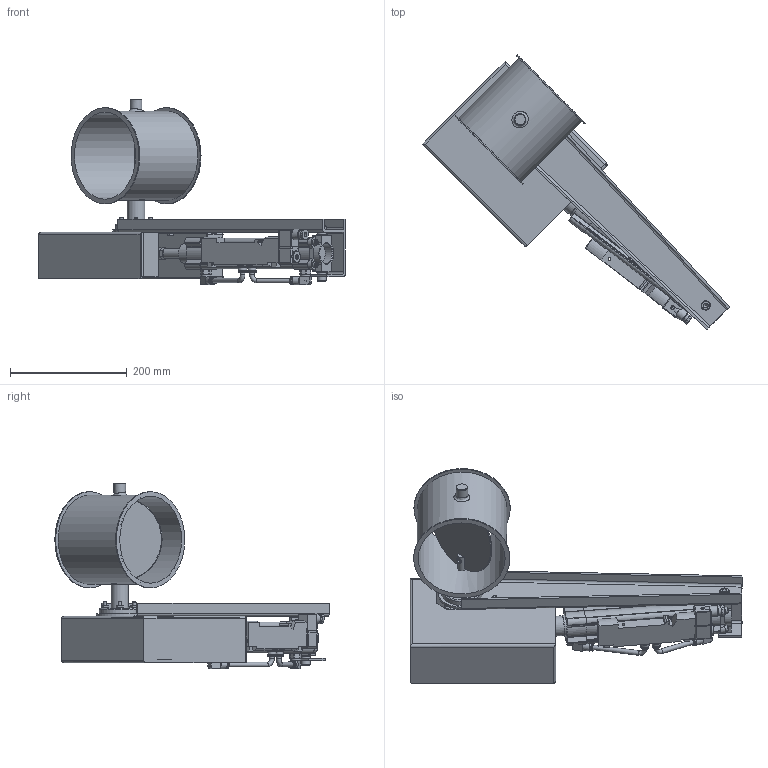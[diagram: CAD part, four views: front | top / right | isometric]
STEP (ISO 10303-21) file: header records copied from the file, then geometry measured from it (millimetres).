
FILE_DESCRIPTION((''),'2;1');
FILE_NAME('U:\Wolfgang\Marcel-3D\fertig\Kapitel 8\1521211.stp','2011-05-03T15:02:44',('TK1'),(''),'Autodesk Inventor 2010','Autodesk Inventor 2010','');
FILE_SCHEMA(('AUTOMOTIVE_DESIGN { 1 0 10303 214 1 1 1 1 }'));
Length unit declared in the file: millimetre
Products named in the file (38): 1521211; BuchseD15 70-50; Bolzen D15; Scheibe150; F1 Zylindereinheit; 174412_ZNCF_40_6_0; 174412_ZNCF_40_6_01; 174412_ZNCF_40_6_02; 174412_ZNCF_40_6_03; 174412_ZNCF_40_6_04; 174412_ZNCF_40_6_05; 532743_DNCB_40_160_PPV_A_6_0; 532743_DNCB_40_160_PPV_A_6_01; 532743_DNCB_40_160_PPV_A_6_02; 537600_VUVB_S_B42_ZD_Q8_3AC1_6_0; 537600_VUVB_S_B42_ZD_Q8_3AC1_6_01; 537600_VUVB_S_B42_ZD_Q8_3AC1_6_02; 537600_VUVB_S_B42_ZD_Q8_3AC1_6_03; 4527_MSFG_24_42_50_60_6_0; 4527_MSFG_24_42_50_60_6_01; 4527_MSFG_24_42_50_60_6_02; 153414_QSRL_1_4_8_6_0; schlauch; Strebe d15; 0021088 d15; Bolzen; Schutzkasten; Kasten-a; Kasten-b; 13570_CRSG_M12x125_6_0; ISO 4018 M6 x 20; ISO 4032 M6; ISO 4018 M8 x 30; ISO 4027 M6 x 10; DIN 6912 M6 x 16; DIN EN ISO 4018 M6x25; DIN 555 - ersetzt durch DIN EN 24034 M6; 1521211-1
Assembly tree (50 placements, depth 4):
  1521211
    BuchseD15 70-50
    Bolzen D15  x2
    Scheibe150
    F1 Zylindereinheit
      174412_ZNCF_40_6_0
        174412_ZNCF_40_6_01
        174412_ZNCF_40_6_02
        174412_ZNCF_40_6_03
        174412_ZNCF_40_6_04
        174412_ZNCF_40_6_05
      532743_DNCB_40_160_PPV_A_6_0
        532743_DNCB_40_160_PPV_A_6_01
        532743_DNCB_40_160_PPV_A_6_02
      537600_VUVB_S_B42_ZD_Q8_3AC1_6_0
        537600_VUVB_S_B42_ZD_Q8_3AC1_6_01
        537600_VUVB_S_B42_ZD_Q8_3AC1_6_02
        537600_VUVB_S_B42_ZD_Q8_3AC1_6_03
      4527_MSFG_24_42_50_60_6_0
        4527_MSFG_24_42_50_60_6_01
        4527_MSFG_24_42_50_60_6_02
      153414_QSRL_1_4_8_6_0  x2
      schlauch  x2
      Strebe d15
      0021088 d15
      Bolzen
      Schutzkasten
        Kasten-a
        Kasten-b
      13570_CRSG_M12x125_6_0
      ISO 4018 M6 x 20  x2
      ISO 4032 M6  x2
      ISO 4018 M8 x 30
      ISO 4027 M6 x 10  x2
    DIN 6912 M6 x 16  x2
    DIN EN ISO 4018 M6x25  x4
    DIN 555 - ersetzt durch DIN EN 24034 M6  x4
    1521211-1
Bounding box: 526.09 x 470.25 x 318.27 mm (x, y, z)
Volume: 1503350.3 mm3; surface area: 828169.1 mm2
Topology: 44 solids, 44 shells, 2618 faces, 6949 edges, 4515 vertices
Faces by surface type: plane 1946, cylinder 399, cone 223, bspline 41, torus 7, sphere 2
Full cylindrical faces by diameter (mm): 1 x3, 2.459 x1, 3 x4, 3.5 x1, 4 x1, 4.5 x1, 4.917 x8, 5 x2, 5.471 x2, 5.5 x1, 6 x37, 6.8 x4, 7.188 x1, 8 x10, 8.05 x1, 9 x2, 9.6 x2, 9.653 x1, 10 x8, 10.15 x2, 11.2 x2, 11.445 x2, 12 x6, 12.5 x1, 13.05 x2, 13.157 x2, 14 x8, 14.4 x4, 14.5 x2, 14.7 x6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
Entity records: 76260 total; most frequent: CARTESIAN_POINT 14886, ORIENTED_EDGE 12254, DIRECTION 11805, EDGE_CURVE 6127, VECTOR 4909, LINE 4909, VERTEX_POINT 4152, AXIS2_PLACEMENT_3D 3448
